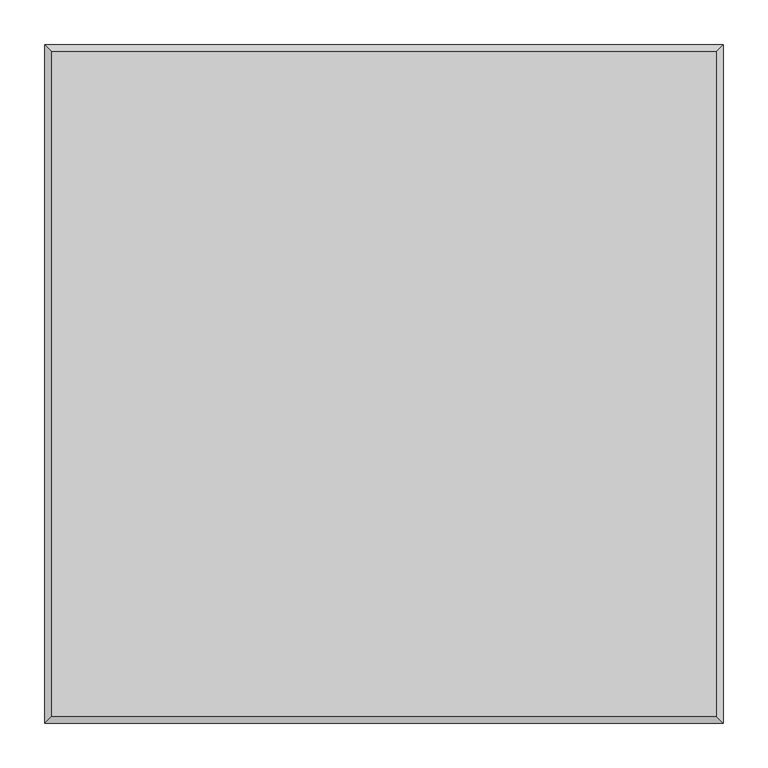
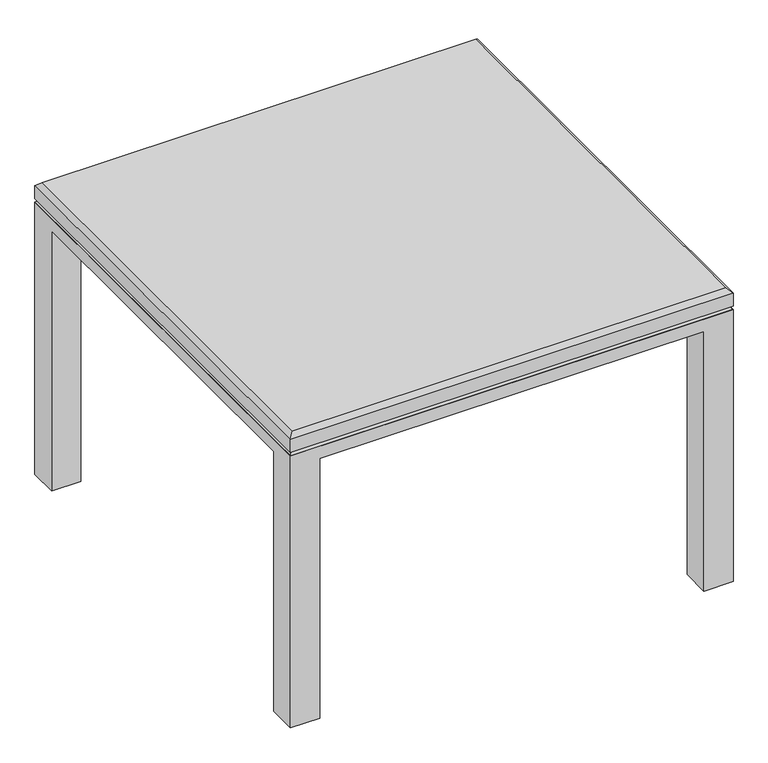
"""IFC4 building model written with IfcOpenShell, lengths in millimetres: furniture geometry, Steelcase Coalesse - Swathmore Plus - Beveled : 30D x 30W x 21H - Glass Top."""

from ifc_helpers import new_model, si_unit, origin, place, context, project, spatial, faceted_brep, source, transform, mapped, element, save


def furniture_e79425fe(model_context):
    return source(origin(), model_context, "Body", "Brep", [
        faceted_brep([(762.0, 0.0, 495.3), (0.0, 0.0, 495.3), (0.0, -762.0, 495.3), (762.0, -762.0, 495.3), (762.0, -50.1297163, 473.0750121), (762.0, -712.1013016, 473.0750121), (711.8734085, -712.1013016, 473.0750121), (711.8734085, -711.8702837, 473.0750121), (755.6498062, -711.8702837, 473.0750121), (755.6498062, -50.1297163, 473.0750121), (711.8734085, -762.0, 473.0750121), (50.1812393, -762.0, 473.0750121), (50.1812393, -712.1013016, 473.0750121), (0.0, -712.1013016, 473.0750121), (0.0, -50.1297163, 473.0750121), (6.3501938, -50.1297163, 473.0750121), (6.3501938, -711.8702837, 473.0750121), (50.8001938, -711.8702837, 473.0750121), (50.8001938, -755.6496318, 473.0750121), (711.8734085, -755.6496318, 473.0750121), (50.1812393, 0.0, 473.0750121), (711.8734085, 0.0, 473.0750121), (711.8734085, -6.3503682, 473.0750121), (50.8001938, -6.3503682, 473.0750121), (50.8001938, -50.1297163, 473.0750121), (50.1812393, -50.1297163, 473.0750121), (762.0, 0.0, 0.0), (711.8734085, 0.0, 0.0), (50.1812393, 0.0, 0.0), (0.0, 0.0, 0.0), (0.0, -50.1297163, 0.0), (0.0, -712.1013016, 0.0), (0.0, -762.0, 0.0), (50.1812393, -762.0, 0.0), (711.8734085, -762.0, 0.0), (762.0, -762.0, 0.0), (762.0, -712.1013016, 0.0), (762.0, -50.1297163, 0.0), (50.1812393, -50.1297163, 0.0), (50.1812393, -712.1013016, 0.0), (711.8734085, -50.1297163, 0.0), (711.8734085, -712.1013016, 0.0), (50.1812393, -712.1013016, 450.8499879), (711.8734085, -50.1297163, 450.8499879), (711.8734085, -28.575, 450.8499879), (733.425, -50.1297163, 450.8499879), (711.8734085, -712.1013016, 450.8499879), (711.8734085, -733.425, 450.8499879), (50.7998062, -50.8000242, 450.8499879), (50.7998062, -28.575, 450.8499879), (733.425, -712.1013016, 450.8499879), (50.1812393, -733.425, 450.8499879), (50.1812393, -712.1013016, 450.8499879), (28.5708422, -712.1013016, 450.8499879), (28.5708422, -50.8000242, 450.8499879)], [[[0, 1, 2, 3]], [[4, 5, 6, 7, 8, 9]], [[10, 11, 12, 13, 14, 15, 16, 17, 18, 19]], [[20, 21, 22, 23, 24, 25]], [[1, 0, 26, 27, 21, 20, 28, 29]], [[2, 1, 29, 30, 14, 13, 31, 32]], [[3, 2, 32, 33, 11, 10, 34, 35]], [[0, 3, 35, 36, 5, 4, 37, 26]], [[28, 38, 30, 29]], [[33, 32, 31, 39]], [[26, 37, 40, 27]], [[36, 35, 34, 41]], [[30, 38, 25, 15, 14]], [[38, 28, 20, 25]], [[33, 39, 42, 12, 11]], [[39, 31, 13, 12, 42]], [[27, 40, 43, 44, 22, 21]], [[40, 37, 4, 9, 45, 43]], [[36, 41, 46, 6, 5]], [[41, 34, 10, 19, 47, 46]], [[48, 49, 44, 43, 45, 50, 46, 47, 51, 52, 53, 54]], [[48, 54, 15, 25, 24]], [[54, 53, 16, 15]], [[53, 52, 17, 16]], [[52, 51, 18, 17]], [[51, 47, 19, 18]], [[46, 7, 6]], [[46, 50, 8, 7]], [[50, 45, 9, 8]], [[44, 49, 23, 22]], [[49, 48, 24, 23]]]),
        faceted_brep([(762.0, -762.0, 525.4625121), (762.0, -762.0, 501.6500121), (762.0, 0.0, 501.6500121), (762.0, 0.0, 525.4625121), (0.0, 0.0, 525.4625121), (0.0, 0.0, 501.6500121), (0.0, -762.0, 501.6500121), (0.0, -762.0, 525.4625121), (754.0626938, -7.9375242, 533.4), (7.9373062, -7.9375242, 533.4), (7.9373062, -754.0625484, 533.4), (754.0626938, -754.0625484, 533.4)], [[[0, 1, 2, 3]], [[4, 5, 6, 7]], [[1, 0, 7, 6]], [[2, 1, 6, 5]], [[3, 2, 5, 4]], [[8, 9, 10, 11]], [[8, 11, 0, 3]], [[11, 10, 7, 0]], [[10, 9, 4, 7]], [[9, 8, 3, 4]]]),
        faceted_brep([(762.0, 0.0, 495.3), (762.0, -762.0, 495.3), (0.0, -762.0, 495.3), (0.0, 0.0, 495.3), (755.6498062, -6.3499758, 501.6500121), (6.3501938, -6.3499758, 501.6500121), (6.3501938, -755.6496318, 501.6500121), (755.6498062, -755.6496318, 501.6500121)], [[[0, 1, 2, 3]], [[4, 5, 6, 7]], [[4, 7, 1, 0]], [[7, 6, 2, 1]], [[6, 5, 3, 2]], [[5, 4, 0, 3]]]),
    ])


if __name__ == "__main__":
    model = new_model("IFC4")
    model_context = context("Model", 3, world=origin())
    ifc_project = project(units=[si_unit("LENGTHUNIT", "METRE", prefix="MILLI")], contexts=[model_context])
    site = spatial("IfcSite", under=ifc_project)
    building = spatial("IfcBuilding", under=site)
    placement = place(None, origin())
    furniture_shape = furniture_e79425fe(model_context)
    element("IfcFurniture", 1, ObjectType="Steelcase Coalesse - Swathmore Plus - Beveled : 30D x 30W x 21H - Glass Top", at=placement, inside=building, context=model_context, shape_type="MappedRepresentation", body=[
        mapped(furniture_shape, transform((0.0, 0.0, 0.0), x_axis=(1.0, 0.0, 0.0), y_axis=(0.0, 1.0, 0.0), z_axis=(0.0, 0.0, 1.0))),
    ])
    save(model, "model.ifc")
